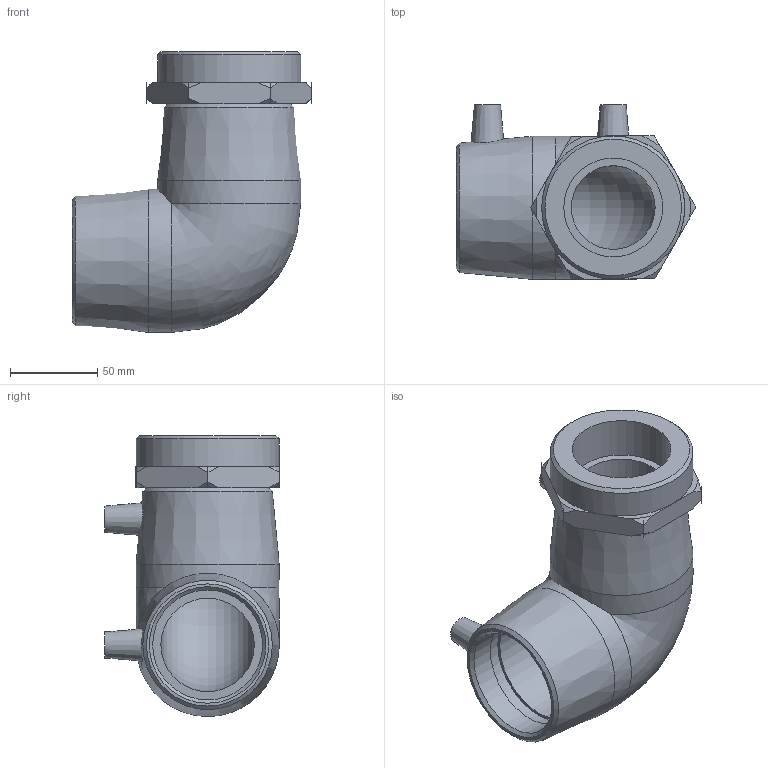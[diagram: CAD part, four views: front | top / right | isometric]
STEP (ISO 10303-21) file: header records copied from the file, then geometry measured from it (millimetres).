
FILE_DESCRIPTION(/* description */ ('PLASSON 90° ELBOW FEMALE TRANSITION 63-2'''''),/* implementation_level */ '2;1');
FILE_NAME(/* name */ 'C:\Dropbox\KIMPROJECTS-Inventor\99-16-3568-Processing\ElectroFusion Fittings\02.02.20\493504\493504063020.ipt.stp',/* time_stamp */ '2020-02-02T12:34:38+02:00',/* author */ ('KIM'),/* organization */ (''),/* preprocessor_version */ 'ST-DEVELOPER v15.6',/* originating_system */ 'Autodesk Inventor 2015',/* authorisation */ '');
FILE_SCHEMA (('AUTOMOTIVE_DESIGN { 1 0 10303 214 3 1 1 }'));
Length unit declared in the file: millimetre
Products named in the file (1): 493504063020
Bounding box: 137.34 x 100.11 x 161 mm (x, y, z)
Volume: 533238.7 mm3; surface area: 99615.1 mm2
Topology: 1 solids, 2 shells, 88 faces, 218 edges, 141 vertices
Faces by surface type: plane 39, cylinder 25, cone 22, bspline 1, torus 1
Full cylindrical faces by diameter (mm): 4 x2, 10 x2, 48 x1, 56.656 x1, 63 x4, 82 x3
Entity records: 2555 total; most frequent: CARTESIAN_POINT 536, DIRECTION 408, ORIENTED_EDGE 356, EDGE_CURVE 178, AXIS2_PLACEMENT_3D 168, VERTEX_POINT 129, EDGE_LOOP 127, STYLED_ITEM 89
